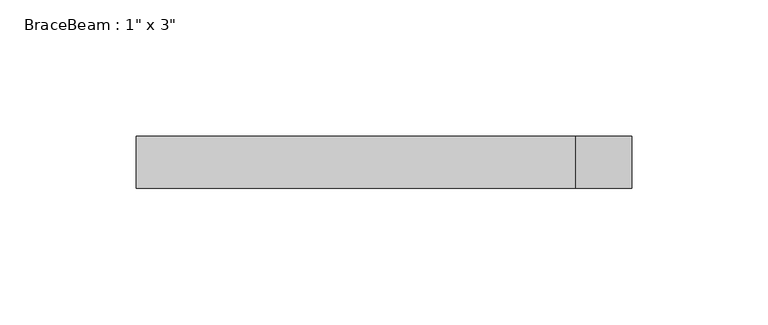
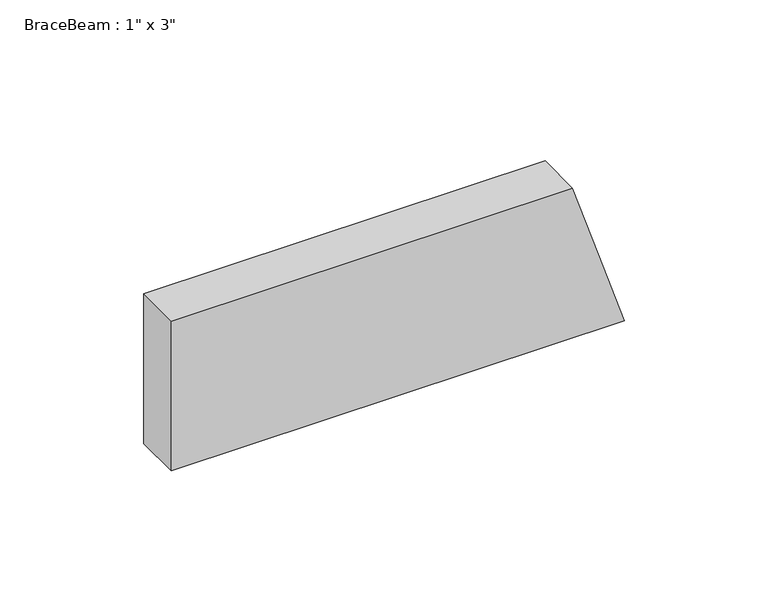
"""IFC4 building model written with IfcOpenShell, lengths in millimetres: beam geometry."""

from ifc_helpers import new_model, si_unit, origin, place, context, project, spatial, faceted_brep, source, transform, mapped, element, save


def beam_90ec22d7(model_context):
    return source(origin(), model_context, "Body", "Brep", [
        faceted_brep([(-86.4995827, -9.525, -31.75), (-86.4995827, 9.525, -31.75), (95.2140602, 9.525, -31.75), (95.2140602, -9.525, -31.75), (-86.4995827, 9.525, 31.75), (74.4883658, 9.525, 31.75), (84.851213, 9.525, 0.0), (-86.4995827, -9.525, 31.75), (74.4883658, -9.525, 31.75), (84.851213, -9.525, 0.0)], [[[0, 1, 2, 3]], [[1, 4, 5, 6, 2]], [[4, 7, 8, 5]], [[7, 0, 3, 9, 8]], [[7, 4, 1, 0]], [[5, 8, 9, 3, 2, 6]]]),
    ])


if __name__ == "__main__":
    model = new_model("IFC4")
    model_context = context("Model", 3, world=origin())
    ifc_project = project(units=[si_unit("LENGTHUNIT", "METRE", prefix="MILLI")], contexts=[model_context])
    site = spatial("IfcSite", under=ifc_project)
    building = spatial("IfcBuilding", under=site)
    placement = place(None, origin())
    beam_shape = beam_90ec22d7(model_context)
    element("IfcBeam", 1, ObjectType="BraceBeam : 1\" x 3\"", at=placement, inside=building, context=model_context, shape_type="MappedRepresentation", body=[
        mapped(beam_shape, transform((0.0, 0.0, 0.0), x_axis=(1.0, 0.0, 0.0), y_axis=(0.0, 1.0, 0.0), z_axis=(0.0, 0.0, 1.0))),
    ])
    save(model, "model.ifc")
